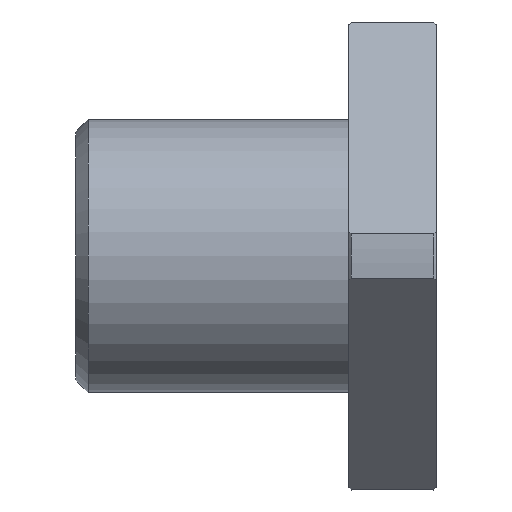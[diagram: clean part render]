
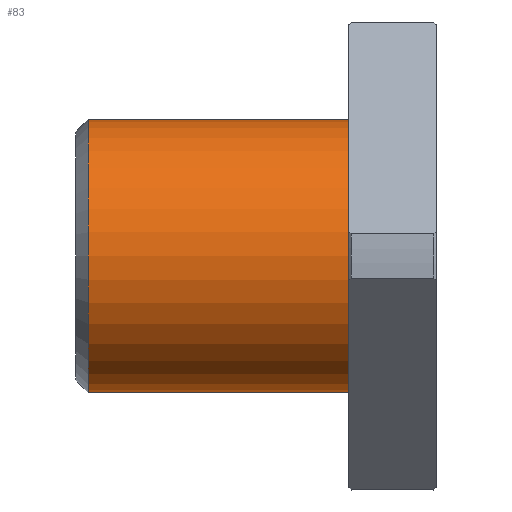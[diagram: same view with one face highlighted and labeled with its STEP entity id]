
A CAD part, front view. The second image highlights one B-rep face of the part: STEP entity #83.
In plain terms, the highlighted cylindrical face has radius 14 mm (diameter 28 mm), a full revolution.
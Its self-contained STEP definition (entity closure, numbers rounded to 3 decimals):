
#83=ADVANCED_FACE('',(#139,#140),#141,.T.);
#139=FACE_OUTER_BOUND('',#233,.T.);
#140=FACE_OUTER_BOUND('',#234,.T.);
#141=CYLINDRICAL_SURFACE('',#235,14.0);
#233=EDGE_LOOP('',(#374));
#234=EDGE_LOOP('',(#375));
#235=AXIS2_PLACEMENT_3D('',#376,#377,#378);
#374=ORIENTED_EDGE('',*,*,#581,.F.);
#375=ORIENTED_EDGE('',*,*,#565,.T.);
#376=CARTESIAN_POINT('',(-37.0,0.,0.0));
#377=DIRECTION('',(1.0,-0.0,-0.0));
#378=DIRECTION('',(0.0,0.0,1.0));
#565=EDGE_CURVE('',#660,#660,#661,.T.);
#581=EDGE_CURVE('',#688,#688,#689,.T.);
#660=VERTEX_POINT('',#817);
#661=CIRCLE('',#818,14.0);
#688=VERTEX_POINT('',#849);
#689=CIRCLE('',#850,14.0);
#817=CARTESIAN_POINT('',(-9.0,0.,14.0));
#818=AXIS2_PLACEMENT_3D('',#953,#954,#955);
#849=CARTESIAN_POINT('',(-35.7,0.,14.0));
#850=AXIS2_PLACEMENT_3D('',#993,#994,#995);
#953=CARTESIAN_POINT('',(-9.0,0.,0.0));
#954=DIRECTION('',(-1.0,0.0,0.0));
#955=DIRECTION('',(0.0,0.0,1.0));
#993=CARTESIAN_POINT('',(-35.7,0.,0.0));
#994=DIRECTION('',(-1.0,0.0,0.0));
#995=DIRECTION('',(0.0,0.0,1.0));
